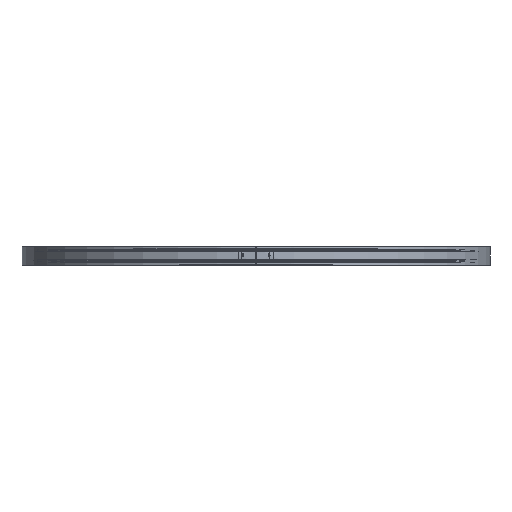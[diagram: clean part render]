
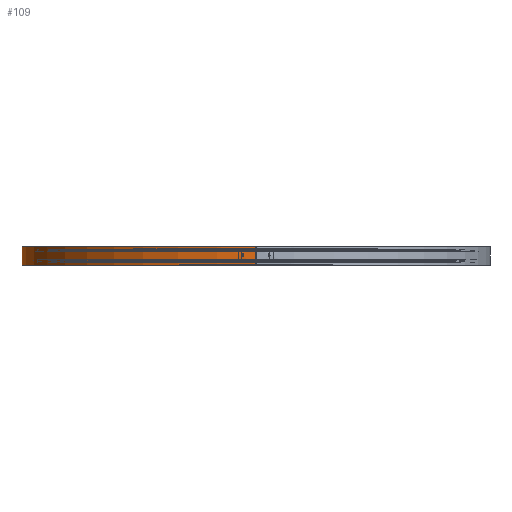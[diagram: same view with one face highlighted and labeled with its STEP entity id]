
A CAD part, top view. The second image highlights one B-rep face of the part: STEP entity #109.
In plain terms, the highlighted free-form (B-spline) face has degree [2, 1] with [9, 2] control points.
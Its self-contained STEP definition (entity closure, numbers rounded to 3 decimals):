
#67=FACE_BOUND('',#718,.T.);
#109=ADVANCED_FACE('',(#413,#67),#4472,.T.);
#413=FACE_OUTER_BOUND('',#717,.T.);
#717=EDGE_LOOP('',(#1127,#1128,#1129,#1130));
#718=EDGE_LOOP('',(#1131,#1132));
#1127=ORIENTED_EDGE('',*,*,#2569,.T.);
#1128=ORIENTED_EDGE('',*,*,#2568,.T.);
#1129=ORIENTED_EDGE('',*,*,#2565,.F.);
#1130=ORIENTED_EDGE('',*,*,#2514,.F.);
#1131=ORIENTED_EDGE('',*,*,#2566,.T.);
#1132=ORIENTED_EDGE('',*,*,#2567,.T.);
#2514=EDGE_CURVE('',#3974,#3970,#3240,.T.);
#2565=EDGE_CURVE('',#3970,#3983,#3601,.T.);
#2566=EDGE_CURVE('',#3929,#3930,#3602,.T.);
#2567=EDGE_CURVE('',#3930,#3929,#3603,.T.);
#2568=EDGE_CURVE('',#4017,#3983,#3290,.T.);
#2569=EDGE_CURVE('',#3974,#4017,#3604,.T.);
#3240=(
BOUNDED_CURVE()
B_SPLINE_CURVE(2,(#10512,#10513,#10514),.UNSPECIFIED.,.F.,.F.)
B_SPLINE_CURVE_WITH_KNOTS((3,3),(1738.573,2317.239),
 .UNSPECIFIED.)
CURVE()
GEOMETRIC_REPRESENTATION_ITEM()
RATIONAL_B_SPLINE_CURVE((1.,0.708,1.))
REPRESENTATION_ITEM('')
);
#3290=(
BOUNDED_CURVE()
B_SPLINE_CURVE(2,(#10748,#10749,#10750),.UNSPECIFIED.,.F.,.F.)
B_SPLINE_CURVE_WITH_KNOTS((3,3),(0.,578.98),.UNSPECIFIED.)
CURVE()
GEOMETRIC_REPRESENTATION_ITEM()
RATIONAL_B_SPLINE_CURVE((1.,0.708,1.))
REPRESENTATION_ITEM('')
);
#3601=B_SPLINE_CURVE_WITH_KNOTS('',1,(#10692,#10693),.UNSPECIFIED.,.F.,
 .F.,(2,2),(0.,29.6),.UNSPECIFIED.);
#3602=B_SPLINE_CURVE_WITH_KNOTS('',3,(#10694,#10695,#10696,#10697,#10698,
#10699,#10700,#10701,#10702,#10703,#10704,#10705,#10706,#10707,#10708,#10709,
#10710,#10711,#10712,#10713,#10714,#10715,#10716,#10717,#10718,#10719,#10720,
#10721,#10722,#10723),.UNSPECIFIED.,.F.,.F.,(4,2,2,2,2,2,2,2,2,2,2,2,2,
2,4),(0.,0.335,0.669,1.004,1.339,
1.674,2.008,2.343,2.678,3.347,
4.017,4.351,4.686,5.021,5.356),
 .UNSPECIFIED.);
#3603=B_SPLINE_CURVE_WITH_KNOTS('',3,(#10724,#10725,#10726,#10727,#10728,
#10729,#10730,#10731,#10732,#10733,#10734,#10735,#10736,#10737,#10738,#10739,
#10740,#10741,#10742,#10743,#10744,#10745,#10746,#10747),.UNSPECIFIED.,
 .F.,.F.,(4,2,2,2,2,2,2,2,2,2,2,4),(0.,0.671,1.341,
1.677,2.012,2.683,3.018,3.353,
3.689,4.024,4.695,5.365),
 .UNSPECIFIED.);
#3604=B_SPLINE_CURVE_WITH_KNOTS('',1,(#10751,#10752),.UNSPECIFIED.,.F.,
 .F.,(2,2),(0.,29.6),.UNSPECIFIED.);
#3929=VERTEX_POINT('',#10136);
#3930=VERTEX_POINT('',#10137);
#3970=VERTEX_POINT('',#10177);
#3974=VERTEX_POINT('',#10181);
#3983=VERTEX_POINT('',#10190);
#4017=VERTEX_POINT('',#10224);
#4472=(
BOUNDED_SURFACE()
B_SPLINE_SURFACE(2,1,((#7640,#7641),(#7642,#7643),(#7644,#7645),(#7646,
#7647),(#7648,#7649),(#7650,#7651),(#7652,#7653),(#7654,#7655),(#7656,#7657)),
 .UNSPECIFIED.,.T.,.F.,.F.)
B_SPLINE_SURFACE_WITH_KNOTS((3,2,2,2,3),(2,2),(0.,579.624,1159.248,
1738.872,2318.495),(0.,35.52),.UNSPECIFIED.)
GEOMETRIC_REPRESENTATION_ITEM()
RATIONAL_B_SPLINE_SURFACE(((1.,1.),(0.707,0.707),
(1.,1.),(0.707,0.707),(1.,1.),(0.707,
0.707),(1.,1.),(0.707,0.707),(1.,1.)))
REPRESENTATION_ITEM('')
SURFACE()
);
#7640=CARTESIAN_POINT('',(0.,-17.76,-369.));
#7641=CARTESIAN_POINT('',(0.,17.76,-369.));
#7642=CARTESIAN_POINT('',(-369.,-17.76,-369.));
#7643=CARTESIAN_POINT('',(-369.,17.76,-369.));
#7644=CARTESIAN_POINT('',(-369.,-17.76,0.));
#7645=CARTESIAN_POINT('',(-369.,17.76,0.));
#7646=CARTESIAN_POINT('',(-369.,-17.76,369.));
#7647=CARTESIAN_POINT('',(-369.,17.76,369.));
#7648=CARTESIAN_POINT('',(0.,-17.76,369.));
#7649=CARTESIAN_POINT('',(0.,17.76,369.));
#7650=CARTESIAN_POINT('',(369.,-17.76,369.));
#7651=CARTESIAN_POINT('',(369.,17.76,369.));
#7652=CARTESIAN_POINT('',(369.,-17.76,0.));
#7653=CARTESIAN_POINT('',(369.,17.76,0.));
#7654=CARTESIAN_POINT('',(369.,-17.76,-369.));
#7655=CARTESIAN_POINT('',(369.,17.76,-369.));
#7656=CARTESIAN_POINT('',(0.,-17.76,-369.));
#7657=CARTESIAN_POINT('',(0.,17.76,-369.));
#10136=CARTESIAN_POINT('',(-368.495,0.,19.303));
#10137=CARTESIAN_POINT('',(-368.301,0.,22.697));
#10177=CARTESIAN_POINT('',(0.,14.8,369.));
#10181=CARTESIAN_POINT('',(-368.999,14.8,0.644));
#10190=CARTESIAN_POINT('',(0.,-14.8,369.));
#10224=CARTESIAN_POINT('',(-368.999,-14.8,0.644));
#10512=CARTESIAN_POINT('',(-368.999,14.8,0.644));
#10513=CARTESIAN_POINT('',(-368.357,14.8,369.));
#10514=CARTESIAN_POINT('',(0.,14.8,369.));
#10692=CARTESIAN_POINT('',(0.,14.8,369.));
#10693=CARTESIAN_POINT('',(0.,-14.8,369.));
#10694=CARTESIAN_POINT('',(-368.495,0.,19.303));
#10695=CARTESIAN_POINT('',(-368.495,0.111,19.303));
#10696=CARTESIAN_POINT('',(-368.494,0.224,19.314));
#10697=CARTESIAN_POINT('',(-368.492,0.441,19.357));
#10698=CARTESIAN_POINT('',(-368.49,0.547,19.389));
#10699=CARTESIAN_POINT('',(-368.486,0.753,19.474));
#10700=CARTESIAN_POINT('',(-368.483,0.853,19.527));
#10701=CARTESIAN_POINT('',(-368.476,1.037,19.65));
#10702=CARTESIAN_POINT('',(-368.473,1.123,19.721));
#10703=CARTESIAN_POINT('',(-368.464,1.282,19.879));
#10704=CARTESIAN_POINT('',(-368.46,1.352,19.965));
#10705=CARTESIAN_POINT('',(-368.449,1.475,20.149));
#10706=CARTESIAN_POINT('',(-368.444,1.528,20.248));
#10707=CARTESIAN_POINT('',(-368.433,1.613,20.454));
#10708=CARTESIAN_POINT('',(-368.427,1.646,20.56));
#10709=CARTESIAN_POINT('',(-368.415,1.689,20.777));
#10710=CARTESIAN_POINT('',(-368.408,1.7,20.89));
#10711=CARTESIAN_POINT('',(-368.389,1.7,21.222));
#10712=CARTESIAN_POINT('',(-368.376,1.655,21.445));
#10713=CARTESIAN_POINT('',(-368.352,1.486,21.854));
#10714=CARTESIAN_POINT('',(-368.341,1.359,22.043));
#10715=CARTESIAN_POINT('',(-368.327,1.124,22.278));
#10716=CARTESIAN_POINT('',(-368.323,1.036,22.35));
#10717=CARTESIAN_POINT('',(-368.315,0.852,22.473));
#10718=CARTESIAN_POINT('',(-368.312,0.754,22.525));
#10719=CARTESIAN_POINT('',(-368.307,0.548,22.61));
#10720=CARTESIAN_POINT('',(-368.305,0.44,22.643));
#10721=CARTESIAN_POINT('',(-368.302,0.223,22.686));
#10722=CARTESIAN_POINT('',(-368.301,0.112,22.697));
#10723=CARTESIAN_POINT('',(-368.301,0.,22.697));
#10724=CARTESIAN_POINT('',(-368.301,0.,22.697));
#10725=CARTESIAN_POINT('',(-368.301,-0.225,22.697));
#10726=CARTESIAN_POINT('',(-368.304,-0.448,22.652));
#10727=CARTESIAN_POINT('',(-368.314,-0.857,22.482));
#10728=CARTESIAN_POINT('',(-368.322,-1.046,22.356));
#10729=CARTESIAN_POINT('',(-368.336,-1.281,22.121));
#10730=CARTESIAN_POINT('',(-368.342,-1.353,22.033));
#10731=CARTESIAN_POINT('',(-368.353,-1.476,21.849));
#10732=CARTESIAN_POINT('',(-368.358,-1.528,21.751));
#10733=CARTESIAN_POINT('',(-368.377,-1.656,21.443));
#10734=CARTESIAN_POINT('',(-368.389,-1.7,21.222));
#10735=CARTESIAN_POINT('',(-368.408,-1.7,20.887));
#10736=CARTESIAN_POINT('',(-368.415,-1.689,20.777));
#10737=CARTESIAN_POINT('',(-368.427,-1.645,20.56));
#10738=CARTESIAN_POINT('',(-368.433,-1.613,20.452));
#10739=CARTESIAN_POINT('',(-368.444,-1.527,20.246));
#10740=CARTESIAN_POINT('',(-368.449,-1.475,20.149));
#10741=CARTESIAN_POINT('',(-368.46,-1.351,19.964));
#10742=CARTESIAN_POINT('',(-368.464,-1.28,19.877));
#10743=CARTESIAN_POINT('',(-368.477,-1.044,19.643));
#10744=CARTESIAN_POINT('',(-368.484,-0.855,19.516));
#10745=CARTESIAN_POINT('',(-368.492,-0.445,19.347));
#10746=CARTESIAN_POINT('',(-368.495,-0.222,19.303));
#10747=CARTESIAN_POINT('',(-368.495,0.,19.303));
#10748=CARTESIAN_POINT('',(-368.999,-14.8,0.644));
#10749=CARTESIAN_POINT('',(-368.357,-14.8,369.));
#10750=CARTESIAN_POINT('',(0.,-14.8,369.));
#10751=CARTESIAN_POINT('',(-368.999,14.8,0.644));
#10752=CARTESIAN_POINT('',(-368.999,-14.8,0.644));
